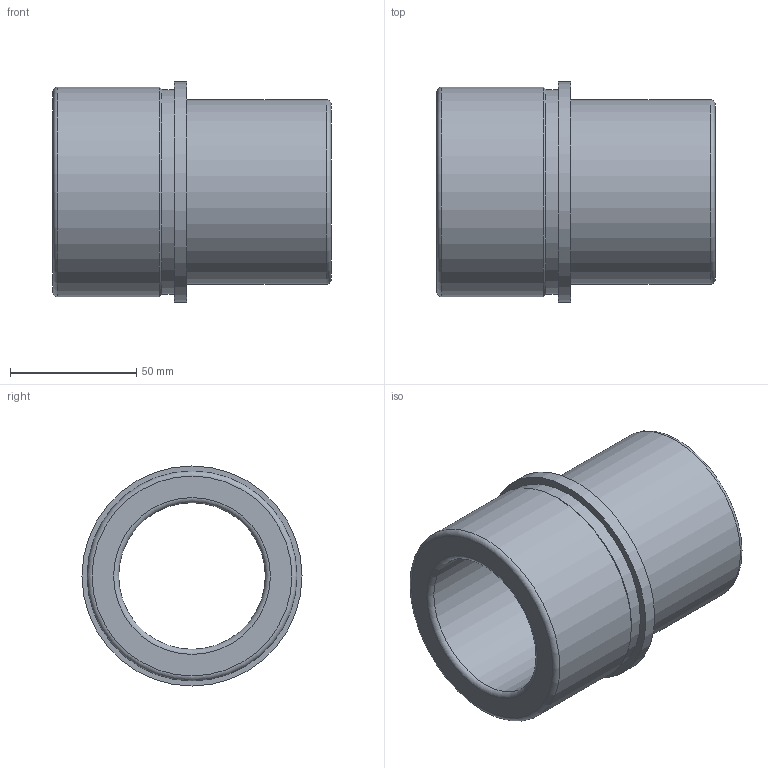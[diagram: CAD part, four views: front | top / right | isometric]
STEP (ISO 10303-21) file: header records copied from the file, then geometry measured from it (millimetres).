
FILE_DESCRIPTION( ( 'STEP AP214' ), '1' );
FILE_NAME( 'p:/temp/worker_65/temp/exporttempdir_4748_8_zO47Q/format_1/WZ - 4053 52 x 110 - 58.stp', '2020-12-06T13:45:43', ( 'License CC BY-ND 4.0' ), ( 'CADENAS' ), ' ', 'PARTsolutions', ' ' );
FILE_SCHEMA( ( 'AUTOMOTIVE_DESIGN { 1 0 10303 214 1 1 1 1 }' ) );
Length unit declared in the file: millimetre
Products named in the file (1): _WZ - 4053 52 x 110 - 58
Bounding box: 110 x 87 x 87 mm (x, y, z)
Volume: 235220 mm3; surface area: 53199.7 mm2
Topology: 1 solids, 1 shells, 14 faces, 24 edges, 14 vertices
Faces by surface type: cylinder 5, plane 4, torus 4, cone 1
Full cylindrical faces by diameter (mm): 58 x1, 73 x1, 81 x1, 83 x1, 87 x1
Entity records: 416 total; most frequent: DIRECTION 58, CARTESIAN_POINT 43, AXIS2_PLACEMENT_3D 29, EDGE_LOOP 28, ORIENTED_EDGE 28, FACE_OUTER_BOUND 23, STYLED_ITEM 14, PRESENTATION_STYLE_ASSIGNMENT 14
